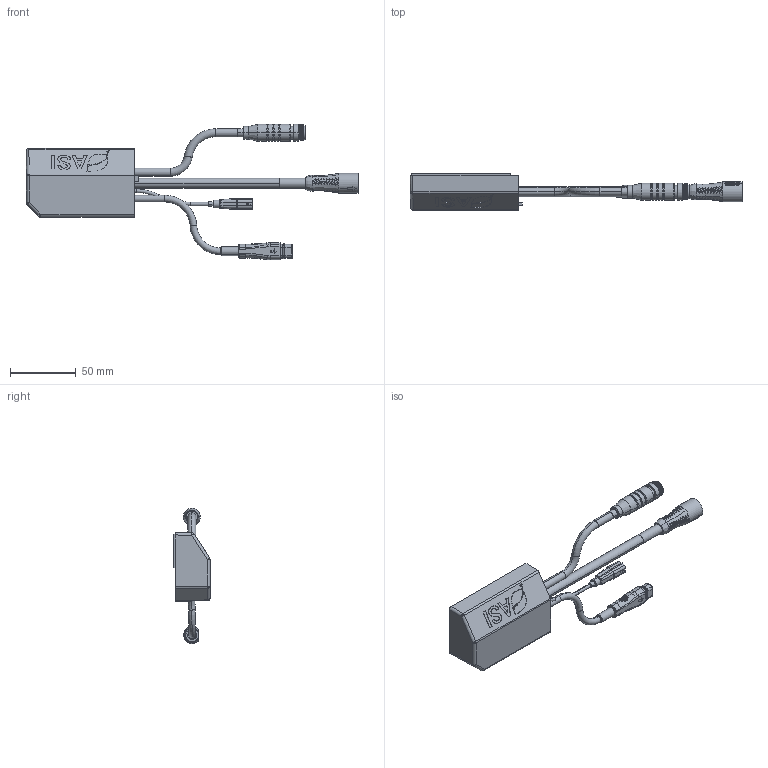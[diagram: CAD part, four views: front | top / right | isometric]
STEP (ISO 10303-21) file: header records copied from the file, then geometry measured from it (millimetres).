
FILE_DESCRIPTION (( 'STEP AP214' ), '1' );
FILE_NAME ('060-001035-01 - BAC555 STANDARD WATERPROOF INTERFACE.STEP', '2024-07-23T15:37:16', ( '' ), ( '' ), 'SwSTEP 2.0', 'SolidWorks 2021', '' );
FILE_SCHEMA (( 'AUTOMOTIVE_DESIGN' ));
Length unit declared in the file: millimetre
Products named in the file (19): 440-000130_440-000130; 440-000163; 440-000132_440-000132; 060-001035-01 - BAC555 STANDARD WATERPROOF INTERFACE; 20-000900_20-001029; Z1513A Accessory Cable_BAC555 Swept Profile; 440-000162_BAC555 Swept Cable; 440-000127_440-000127; Waterproof Battery Cable, BAC555&355_Swept profile; 440-000161_BAC555 Swept Profile; waterproof motor cable, bac555&355_440-000163; 21-000009 - Potted control board LED installation 2020-03-32_ADD LED; Z609F Torque Cable_BAC555 Swept Cable; 2013-05-24 - BAC Ne 500 potting_ASI Hardtooled - no JST; 440-000164_Swept Profile; L513AG 5-PIN MALE; 84-000049_10; 40-000073_0.5g; 84-000048_72
Assembly tree (15 placements, depth 3):
  060-001035-01 - BAC555 STANDARD WATERPROOF INTERFACE
    20-000900_20-001029
    2013-05-24 - BAC Ne 500 potting_ASI Hardtooled - no JST
    21-000009 - Potted control board LED installation 2020-03-32_ADD LED
    440-000161_BAC555 Swept Profile
      440-000130_440-000130
      Z1513A Accessory Cable_BAC555 Swept Profile
    440-000162_BAC555 Swept Cable
      440-000127_440-000127
      Z609F Torque Cable_BAC555 Swept Cable
    440-000163
      440-000132_440-000132
      waterproof motor cable, bac555&355_440-000163
    440-000164_Swept Profile
      L513AG 5-PIN MALE
      Waterproof Battery Cable, BAC555&355_Swept profile
  84-000049_10
  40-000073_0.5g
  84-000048_72
Bounding box: 252.46 x 27.5 x 103.06 mm (x, y, z)
Volume: 130334.3 mm3; surface area: 41235.5 mm2
Topology: 16 solids, 22 shells, 2510 faces, 6246 edges, 4012 vertices
Faces by surface type: plane 922, bspline 702, cylinder 572, cone 182, torus 128, sphere 4
Entity records: 99089 total; most frequent: CARTESIAN_POINT 41851, ORIENTED_EDGE 12448, DIRECTION 9753, EDGE_CURVE 6224, VERTEX_POINT 4012, AXIS2_PLACEMENT_3D 3516, EDGE_LOOP 2804, VECTOR 2721
